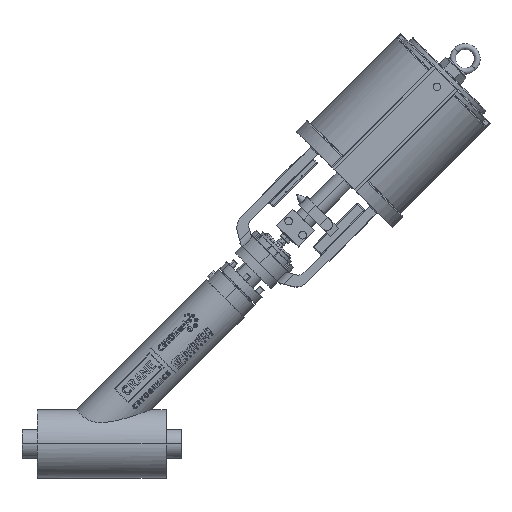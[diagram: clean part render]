
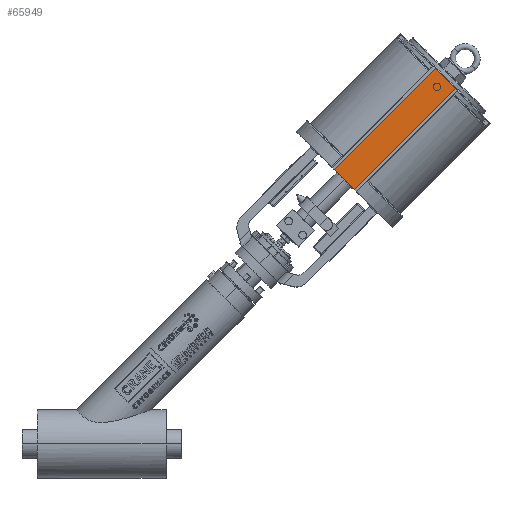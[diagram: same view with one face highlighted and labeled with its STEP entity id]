
A CAD part, top view. The second image highlights one B-rep face of the part: STEP entity #65949.
In plain terms, the highlighted planar face has unit normal (0, 0, 1).
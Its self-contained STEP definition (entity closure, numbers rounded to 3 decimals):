
#2836 = CARTESIAN_POINT ( 'NONE',  ( 20.318, 18.988, 4.5 ) ) ;
#4308 = VERTEX_POINT ( 'NONE', #106212 ) ;
#6468 = CARTESIAN_POINT ( 'NONE',  ( 23.429, 24.758, 4.5 ) ) ;
#7571 = PLANE ( 'NONE',  #79567 ) ;
#8999 = ORIENTED_EDGE ( 'NONE', *, *, #45357, .T. ) ;
#15217 = ORIENTED_EDGE ( 'NONE', *, *, #50802, .T. ) ;
#18604 = CARTESIAN_POINT ( 'NONE',  ( 24.758, 23.429, 4.5 ) ) ;
#29213 = CARTESIAN_POINT ( 'NONE',  ( 16.768, 18.097, 4.5 ) ) ;
#31147 = VERTEX_POINT ( 'NONE', #29213 ) ;
#33179 = CARTESIAN_POINT ( 'NONE',  ( 16.768, 18.097, 4.5 ) ) ;
#42541 = CARTESIAN_POINT ( 'NONE',  ( 24.758, 23.429, 4.5 ) ) ;
#44127 = B_SPLINE_CURVE_WITH_KNOTS ( 'NONE', 3,
 ( #18604, #58938, #88187, #127867 ),
 .UNSPECIFIED., .F., .F.,
 ( 4, 4 ),
 ( 0., 1. ),
 .UNSPECIFIED. ) ;
#45357 = EDGE_CURVE ( 'NONE', #4308, #31147, #113995, .T. ) ;
#48850 = ORIENTED_EDGE ( 'NONE', *, *, #82291, .T. ) ;
#49721 = B_SPLINE_CURVE_WITH_KNOTS ( 'NONE', 3,
 ( #108098, #50822, #68418, #88551 ),
 .UNSPECIFIED., .F., .F.,
 ( 4, 4 ),
 ( 0., 1. ),
 .UNSPECIFIED. ) ;
#49949 = EDGE_LOOP ( 'NONE', ( #8999, #86447, #48850, #15217 ) ) ;
#50802 = EDGE_CURVE ( 'NONE', #67790, #4308, #44127, .T. ) ;
#50822 = CARTESIAN_POINT ( 'NONE',  ( 17.211, 17.654, 4.5 ) ) ;
#56565 = CARTESIAN_POINT ( 'NONE',  ( 24.758, 23.429, 4.5 ) ) ;
#58938 = CARTESIAN_POINT ( 'NONE',  ( 24.315, 23.872, 4.5 ) ) ;
#60213 = VERTEX_POINT ( 'NONE', #120319 ) ;
#60782 = CARTESIAN_POINT ( 'NONE',  ( 18.097, 16.768, 4.5 ) ) ;
#65949 = ADVANCED_FACE ( 'NONE', ( #86916 ), #7571, .T. ) ;
#67790 = VERTEX_POINT ( 'NONE', #56565 ) ;
#68418 = CARTESIAN_POINT ( 'NONE',  ( 17.654, 17.211, 4.5 ) ) ;
#68677 = CARTESIAN_POINT ( 'NONE',  ( 26.752, 25.423, 4.5 ) ) ;
#79567 = AXIS2_PLACEMENT_3D ( 'NONE', #68677, #95349, #125938 ) ;
#82218 = CARTESIAN_POINT ( 'NONE',  ( 22.538, 21.209, 4.5 ) ) ;
#82291 = EDGE_CURVE ( 'NONE', #60213, #67790, #118202, .T. ) ;
#82622 = CARTESIAN_POINT ( 'NONE',  ( 21.209, 22.538, 4.5 ) ) ;
#86447 = ORIENTED_EDGE ( 'NONE', *, *, #98661, .T. ) ;
#86916 = FACE_OUTER_BOUND ( 'NONE', #49949, .T. ) ;
#88187 = CARTESIAN_POINT ( 'NONE',  ( 23.872, 24.315, 4.5 ) ) ;
#88551 = CARTESIAN_POINT ( 'NONE',  ( 18.097, 16.768, 4.5 ) ) ;
#95349 = DIRECTION ( 'NONE',  ( 0., 0., 1. ) ) ;
#98661 = EDGE_CURVE ( 'NONE', #31147, #60213, #49721, .T. ) ;
#106212 = CARTESIAN_POINT ( 'NONE',  ( 23.429, 24.758, 4.5 ) ) ;
#108098 = CARTESIAN_POINT ( 'NONE',  ( 16.768, 18.097, 4.5 ) ) ;
#113995 = B_SPLINE_CURVE_WITH_KNOTS ( 'NONE', 3,
 ( #6468, #82622, #122285, #33179 ),
 .UNSPECIFIED., .F., .F.,
 ( 4, 4 ),
 ( 0., 1. ),
 .UNSPECIFIED. ) ;
#118202 = B_SPLINE_CURVE_WITH_KNOTS ( 'NONE', 3,
 ( #60782, #2836, #82218, #42541 ),
 .UNSPECIFIED., .F., .F.,
 ( 4, 4 ),
 ( 0., 1. ),
 .UNSPECIFIED. ) ;
#120319 = CARTESIAN_POINT ( 'NONE',  ( 18.097, 16.768, 4.5 ) ) ;
#122285 = CARTESIAN_POINT ( 'NONE',  ( 18.988, 20.318, 4.5 ) ) ;
#125938 = DIRECTION ( 'NONE',  ( 1., 0., 0. ) ) ;
#127867 = CARTESIAN_POINT ( 'NONE',  ( 23.429, 24.758, 4.5 ) ) ;
